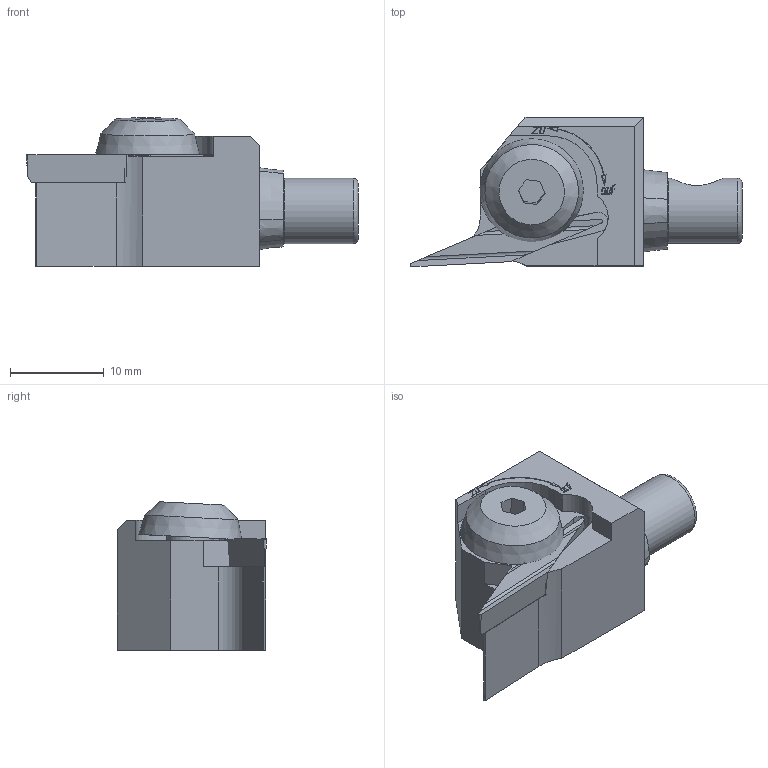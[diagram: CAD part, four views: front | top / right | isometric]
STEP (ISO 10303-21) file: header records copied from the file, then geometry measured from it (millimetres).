
FILE_DESCRIPTION(/* description */ (''),/* implementation_level */ '2;1');
FILE_NAME(/* name */ 'WEBDA_E00017380_00_DIN4003.stp',/* time_stamp */ '2021-09-20T12:06:56+02:00',/* author */ (''),/* organization */ (''),/* preprocessor_version */ 'ST-DEVELOPER v16',/* originating_system */ 'SIEMENS PLM Software NX 11.0',/* authorisation */ '');
FILE_SCHEMA (('AUTOMOTIVE_DESIGN { 1 0 10303 214 3 1 1 1 }'));
Length unit declared in the file: millimetre
Products named in the file (1): ja.h510065E0pxak
Bounding box: 35.49 x 16 x 15.87 mm (x, y, z)
Volume: 3924.8 mm3; surface area: 2498.4 mm2
Topology: 2 solids, 2 shells, 161 faces, 426 edges, 295 vertices
Faces by surface type: plane 102, cone 22, cylinder 18, extrusion 15, torus 4
Full cylindrical faces by diameter (mm): 2 x1, 4.2 x1, 4.9 x1, 5 x1, 5.1 x1, 6.99 x1
Entity records: 5235 total; most frequent: CARTESIAN_POINT 1425, ORIENTED_EDGE 764, DIRECTION 684, EDGE_CURVE 382, VERTEX_POINT 258, AXIS2_PLACEMENT_3D 234, VECTOR 216, LINE 201
